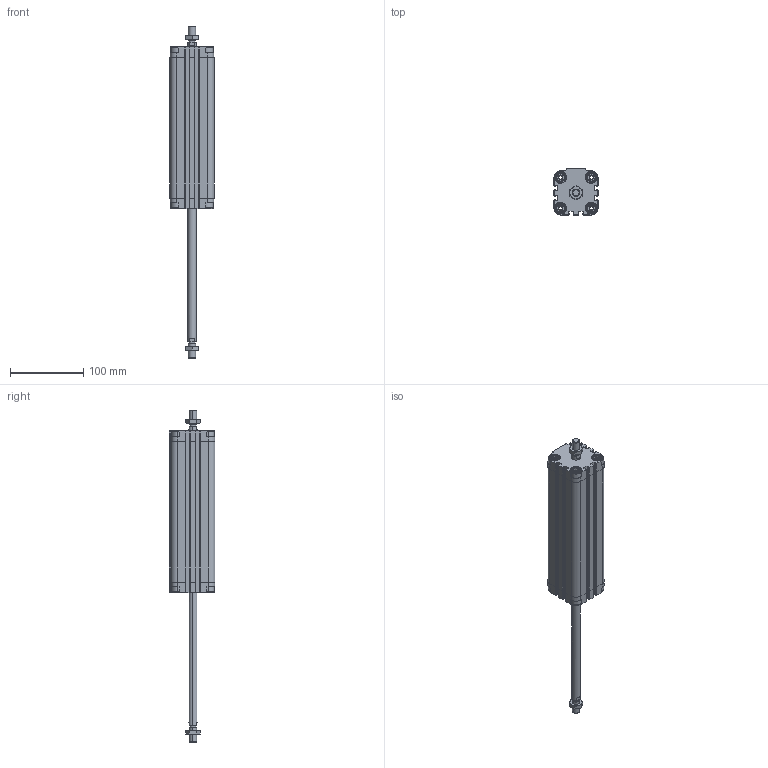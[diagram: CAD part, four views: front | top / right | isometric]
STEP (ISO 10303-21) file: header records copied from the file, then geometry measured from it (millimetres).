
FILE_DESCRIPTION (( 'STEP AP203' ), '1' );
FILE_NAME ('CDVU40-175M-P.STEP', '2020-07-21T15:18:12', ( '' ), ( '' ), 'SwSTEP 2.0', 'SolidWorks 2019', '' );
FILE_SCHEMA (( 'CONFIG_CONTROL_DESIGN' ));
Length unit declared in the file: millimetre
Products named in the file (1): CDVU40-175M-P
Bounding box: 60 x 62.5 x 452.5 mm (x, y, z)
Volume: 527713.1 mm3; surface area: 146771.5 mm2
Topology: 4 solids, 4 shells, 758 faces, 2004 edges, 1290 vertices
Faces by surface type: plane 438, cylinder 240, cone 80
Entity records: 24115 total; most frequent: CARTESIAN_POINT 5193, ORIENTED_EDGE 4000, DIRECTION 3862, EDGE_CURVE 2000, AXIS2_PLACEMENT_3D 1319, VERTEX_POINT 1290, LINE 1224, VECTOR 1224
